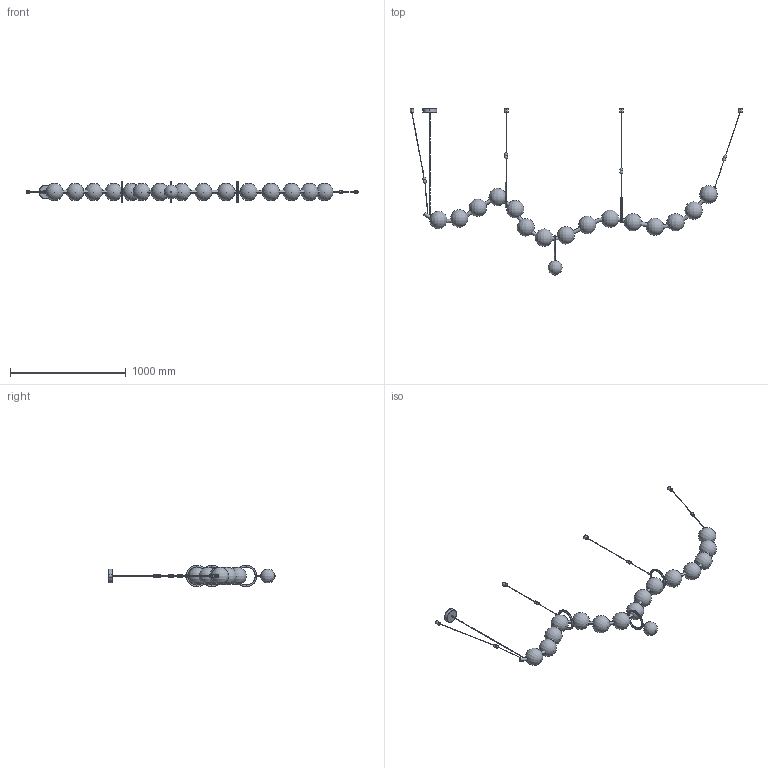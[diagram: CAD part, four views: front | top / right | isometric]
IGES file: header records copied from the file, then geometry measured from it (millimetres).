
Start section: SolidWorks IGES file using analytic representation for surfaces
Global section: file name: F:\燠隴矨\3D\2026-4\Necklace LED Pendant Lamp-15heads-L247cm.IGS,15; native system: HSolidWorks 2022; preprocessor: SolidWorks 2022; author: MyPC; date: 260424.160326; units: millimetre
Bounding box: 2867.52 x 1439.8 x 183.72 mm (x, y, z)
Surface area: 2666887.6 mm2 (no closed solid volume)
Topology: 0 solids, 0 shells, 129 faces, 1976 edges, 1928 vertices
Faces by surface type: revolution 76, bspline 53
